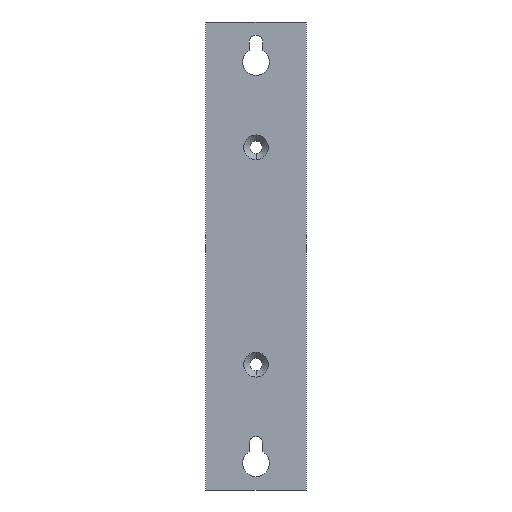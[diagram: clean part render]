
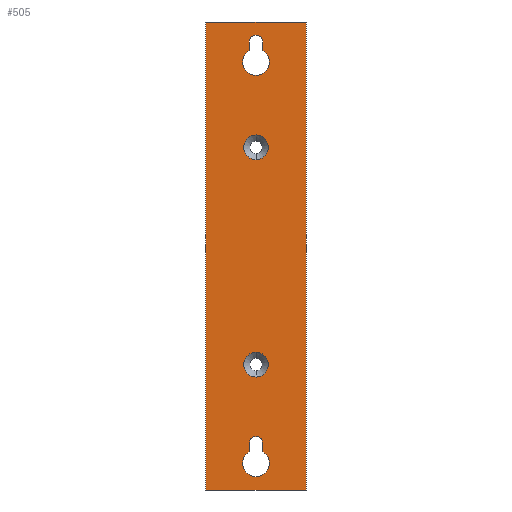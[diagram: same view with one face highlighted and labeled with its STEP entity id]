
A CAD part, front view. The second image highlights one B-rep face of the part: STEP entity #505.
In plain terms, the highlighted planar face has unit normal (0, -1, 0).
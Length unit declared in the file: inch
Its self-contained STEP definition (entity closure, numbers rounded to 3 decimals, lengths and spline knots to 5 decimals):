
#130=DIRECTION('',(0.,0.,1.));
#131=VECTOR('',#130,7.);
#132=CARTESIAN_POINT('',(0.,-0.125,0.));
#133=LINE('',#132,#131);
#134=DIRECTION('',(1.,0.,0.));
#135=VECTOR('',#134,1.5);
#136=CARTESIAN_POINT('',(0.,-0.125,7.));
#137=LINE('',#136,#135);
#138=DIRECTION('',(0.,0.,-1.));
#139=VECTOR('',#138,7.);
#140=CARTESIAN_POINT('',(1.5,-0.125,7.));
#141=LINE('',#140,#139);
#142=DIRECTION('',(-1.,0.,0.));
#143=VECTOR('',#142,1.5);
#144=CARTESIAN_POINT('',(1.5,-0.125,0.));
#145=LINE('',#144,#143);
#146=CARTESIAN_POINT('',(0.75,-0.125,0.7));
#147=DIRECTION('',(0.,-1.,0.));
#148=DIRECTION('',(1.,0.,0.));
#149=AXIS2_PLACEMENT_3D('',#146,#147,#148);
#151=DIRECTION('',(0.,0.,1.));
#152=VECTOR('',#151,0.12679);
#153=CARTESIAN_POINT('',(0.65,-0.125,0.57321));
#154=LINE('',#153,#152);
#155=CARTESIAN_POINT('',(0.75,-0.125,0.4));
#156=DIRECTION('',(0.,-1.,0.));
#157=DIRECTION('',(-0.5,0.,0.866));
#158=AXIS2_PLACEMENT_3D('',#155,#156,#157);
#160=DIRECTION('',(0.,0.,-1.));
#161=VECTOR('',#160,0.12679);
#162=CARTESIAN_POINT('',(0.85,-0.125,0.7));
#163=LINE('',#162,#161);
#164=CARTESIAN_POINT('',(0.75,-0.125,6.7));
#165=DIRECTION('',(0.,-1.,0.));
#166=DIRECTION('',(1.,0.,0.));
#167=AXIS2_PLACEMENT_3D('',#164,#165,#166);
#169=DIRECTION('',(0.,0.,1.));
#170=VECTOR('',#169,0.12679);
#171=CARTESIAN_POINT('',(0.65,-0.125,6.57321));
#172=LINE('',#171,#170);
#173=CARTESIAN_POINT('',(0.75,-0.125,6.4));
#174=DIRECTION('',(0.,-1.,0.));
#175=DIRECTION('',(-0.5,0.,0.866));
#176=AXIS2_PLACEMENT_3D('',#173,#174,#175);
#178=DIRECTION('',(0.,0.,-1.));
#179=VECTOR('',#178,0.12679);
#180=CARTESIAN_POINT('',(0.85,-0.125,6.7));
#181=LINE('',#180,#179);
#182=CARTESIAN_POINT('',(0.75,-0.125,1.875));
#183=DIRECTION('',(0.,-1.,0.));
#184=DIRECTION('',(0.,0.,-1.));
#185=AXIS2_PLACEMENT_3D('',#182,#183,#184);
#200=CARTESIAN_POINT('',(0.75,-0.125,1.875));
#201=DIRECTION('',(0.,-1.,0.));
#202=DIRECTION('',(0.,0.,1.));
#203=AXIS2_PLACEMENT_3D('',#200,#201,#202);
#218=CARTESIAN_POINT('',(0.75,-0.125,5.125));
#219=DIRECTION('',(0.,-1.,0.));
#220=DIRECTION('',(0.,0.,-1.));
#221=AXIS2_PLACEMENT_3D('',#218,#219,#220);
#236=CARTESIAN_POINT('',(0.75,-0.125,5.125));
#237=DIRECTION('',(0.,-1.,0.));
#238=DIRECTION('',(0.,0.,1.));
#239=AXIS2_PLACEMENT_3D('',#236,#237,#238);
#294=CARTESIAN_POINT('',(0.,-0.125,0.));
#295=CARTESIAN_POINT('',(0.,-0.125,7.));
#296=VERTEX_POINT('',#294);
#297=VERTEX_POINT('',#295);
#298=CARTESIAN_POINT('',(1.5,-0.125,7.));
#299=VERTEX_POINT('',#298);
#300=CARTESIAN_POINT('',(1.5,-0.125,0.));
#301=VERTEX_POINT('',#300);
#310=CARTESIAN_POINT('',(0.85,-0.125,0.7));
#311=CARTESIAN_POINT('',(0.65,-0.125,0.7));
#312=VERTEX_POINT('',#310);
#313=VERTEX_POINT('',#311);
#314=CARTESIAN_POINT('',(0.85,-0.125,0.57321));
#315=VERTEX_POINT('',#314);
#316=CARTESIAN_POINT('',(0.65,-0.125,0.57321));
#317=VERTEX_POINT('',#316);
#318=CARTESIAN_POINT('',(0.85,-0.125,6.7));
#319=CARTESIAN_POINT('',(0.65,-0.125,6.7));
#320=VERTEX_POINT('',#318);
#321=VERTEX_POINT('',#319);
#322=CARTESIAN_POINT('',(0.85,-0.125,6.57321));
#323=VERTEX_POINT('',#322);
#324=CARTESIAN_POINT('',(0.65,-0.125,6.57321));
#325=VERTEX_POINT('',#324);
#342=CARTESIAN_POINT('',(0.75,-0.125,5.31));
#343=CARTESIAN_POINT('',(0.75,-0.125,4.94));
#344=VERTEX_POINT('',#342);
#345=VERTEX_POINT('',#343);
#350=CARTESIAN_POINT('',(0.75,-0.125,2.06));
#351=CARTESIAN_POINT('',(0.75,-0.125,1.69));
#352=VERTEX_POINT('',#350);
#353=VERTEX_POINT('',#351);
#462=CARTESIAN_POINT('',(0.,-0.125,0.));
#463=DIRECTION('',(0.,1.,0.));
#464=DIRECTION('',(0.,0.,1.));
#465=AXIS2_PLACEMENT_3D('',#462,#463,#464);
#466=PLANE('',#465);
#467=ORIENTED_EDGE('',*,*,#414,.T.);
#468=ORIENTED_EDGE('',*,*,#429,.T.);
#469=ORIENTED_EDGE('',*,*,#443,.T.);
#470=ORIENTED_EDGE('',*,*,#456,.T.);
#471=EDGE_LOOP('',(#467,#468,#469,#470));
#472=FACE_OUTER_BOUND('',#471,.F.);
#474=ORIENTED_EDGE('',*,*,#473,.T.);
#476=ORIENTED_EDGE('',*,*,#475,.T.);
#477=EDGE_LOOP('',(#474,#476));
#478=FACE_BOUND('',#477,.F.);
#480=ORIENTED_EDGE('',*,*,#479,.T.);
#482=ORIENTED_EDGE('',*,*,#481,.T.);
#483=EDGE_LOOP('',(#480,#482));
#484=FACE_BOUND('',#483,.F.);
#486=ORIENTED_EDGE('',*,*,#485,.T.);
#488=ORIENTED_EDGE('',*,*,#487,.F.);
#490=ORIENTED_EDGE('',*,*,#489,.T.);
#492=ORIENTED_EDGE('',*,*,#491,.F.);
#493=EDGE_LOOP('',(#486,#488,#490,#492));
#494=FACE_BOUND('',#493,.F.);
#496=ORIENTED_EDGE('',*,*,#495,.T.);
#498=ORIENTED_EDGE('',*,*,#497,.F.);
#500=ORIENTED_EDGE('',*,*,#499,.T.);
#502=ORIENTED_EDGE('',*,*,#501,.F.);
#503=EDGE_LOOP('',(#496,#498,#500,#502));
#504=FACE_BOUND('',#503,.F.);
#505=ADVANCED_FACE('',(#472,#478,#484,#494,#504),#466,.F.);
#150=CIRCLE('',#149,0.1);
#159=CIRCLE('',#158,0.2);
#168=CIRCLE('',#167,0.1);
#177=CIRCLE('',#176,0.2);
#186=CIRCLE('',#185,0.185);
#204=CIRCLE('',#203,0.185);
#222=CIRCLE('',#221,0.185);
#240=CIRCLE('',#239,0.185);
#414=EDGE_CURVE('',#296,#297,#133,.T.);
#429=EDGE_CURVE('',#297,#299,#137,.T.);
#443=EDGE_CURVE('',#299,#301,#141,.T.);
#456=EDGE_CURVE('',#301,#296,#145,.T.);
#473=EDGE_CURVE('',#353,#352,#186,.T.);
#475=EDGE_CURVE('',#352,#353,#204,.T.);
#479=EDGE_CURVE('',#345,#344,#222,.T.);
#481=EDGE_CURVE('',#344,#345,#240,.T.);
#485=EDGE_CURVE('',#312,#313,#150,.T.);
#487=EDGE_CURVE('',#317,#313,#154,.T.);
#489=EDGE_CURVE('',#317,#315,#159,.T.);
#491=EDGE_CURVE('',#312,#315,#163,.T.);
#495=EDGE_CURVE('',#320,#321,#168,.T.);
#497=EDGE_CURVE('',#325,#321,#172,.T.);
#499=EDGE_CURVE('',#325,#323,#177,.T.);
#501=EDGE_CURVE('',#320,#323,#181,.T.);
